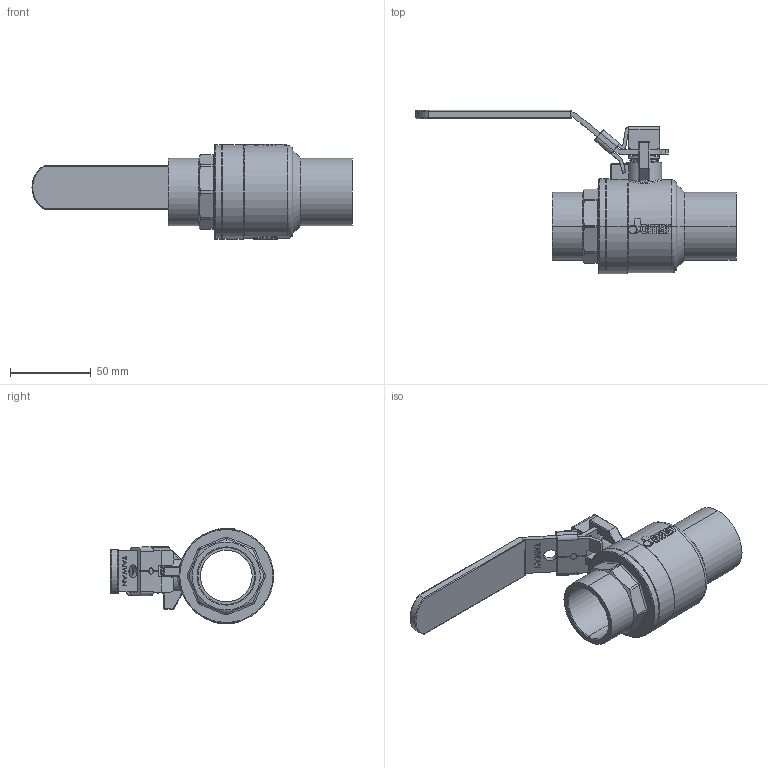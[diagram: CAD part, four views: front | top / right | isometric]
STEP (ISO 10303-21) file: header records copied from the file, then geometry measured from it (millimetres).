
FILE_DESCRIPTION (( 'STEP AP203' ), '1' );
FILE_NAME ('ABL756-有掛鎖--1.25''''CxC球閥體-CxC組合-無鉛 端面無插溝.STEP', '2025-12-15T08:31:07', ( '' ), ( '' ), 'SwSTEP 2.0', 'SolidWorks 2018', '' );
FILE_SCHEMA (( 'CONFIG_CONTROL_DESIGN' ));
Length unit declared in the file: millimetre
Products named in the file (14): DN32-本玛рも-CBL215э155; EBL706; DN32-CBL746-白色膠套-T&G-200CSSG-LH; BBL716-1.25''''CxC球閥體-無鉛-端面無插溝; DN32-掛鎖; NGV109; RBL706; DN32-CBL746-掛鎖把手組合; GBL604; BBL716A-1.25''''JOMAR球閥CxC帽蓋-無鉛-端面無插溝; EBL706A; ABL756-有掛鎖--1.25''''CxC球閥體-CxC組合-無鉛 端面無插溝; EBL306; TBL267A (TBL106)
Assembly tree (14 placements, depth 3):
  ABL756-有掛鎖--1.25''''CxC球閥體-CxC組合-無鉛 端面無插溝
    BBL716-1.25''''CxC球閥體-無鉛-端面無插溝
    GBL604
    RBL706
    TBL267A (TBL106)
    EBL706A
    EBL706
    EBL306  x2
    NGV109
    BBL716A-1.25''''JOMAR球閥CxC帽蓋-無鉛-端面無插溝
    DN32-CBL746-掛鎖把手組合
      DN32-本玛рも-CBL215э155
      DN32-掛鎖
    DN32-CBL746-白色膠套-T&G-200CSSG-LH
Bounding box: 197.9 x 100.86 x 59 mm (x, y, z)
Volume: 141118.3 mm3; surface area: 89390.8 mm2
Topology: 13 solids, 13 shells, 2330 faces, 6237 edges, 4109 vertices
Faces by surface type: plane 1262, bspline 651, cylinder 304, cone 67, torus 28, sphere 18
Entity records: 118623 total; most frequent: CARTESIAN_POINT 64121, ORIENTED_EDGE 12390, DIRECTION 8474, EDGE_CURVE 6195, VERTEX_POINT 4089, VECTOR 3914, LINE 3914, EDGE_LOOP 2532
